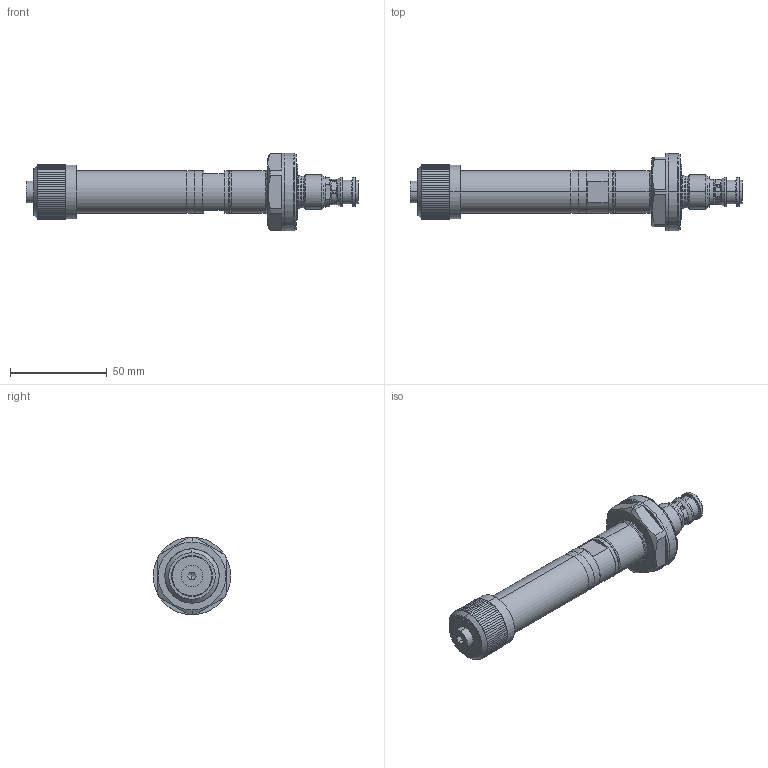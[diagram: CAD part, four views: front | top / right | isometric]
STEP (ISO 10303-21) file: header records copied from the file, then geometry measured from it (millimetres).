
FILE_DESCRIPTION (( 'STEP AP214' ), '1' );
FILE_NAME ('SDZPM18-AB.STEP', '2017-03-01T14:32:37', ( '' ), ( '' ), 'SwSTEP 2.0', 'SolidWorks 2016', '' );
FILE_SCHEMA (( 'AUTOMOTIVE_DESIGN' ));
Length unit declared in the file: millimetre
Products named in the file (1): SDZPM18-AB
Bounding box: 171.45 x 40 x 40 mm (x, y, z)
Volume: 74176.5 mm3; surface area: 17332.6 mm2
Topology: 1 solids, 1 shells, 503 faces, 1360 edges, 882 vertices
Faces by surface type: plane 285, cylinder 158, torus 29, cone 27, bspline 4
Entity records: 21850 total; most frequent: CARTESIAN_POINT 3846, ORIENTED_EDGE 2708, DIRECTION 2524, EDGE_CURVE 1354, VERTEX_POINT 882, AXIS2_PLACEMENT_3D 880, VECTOR 764, LINE 764
